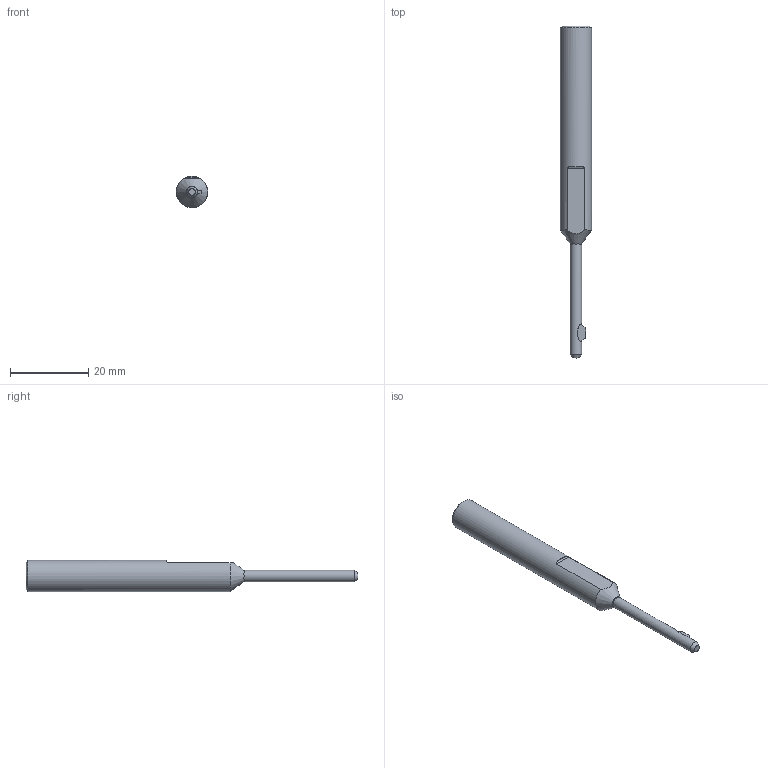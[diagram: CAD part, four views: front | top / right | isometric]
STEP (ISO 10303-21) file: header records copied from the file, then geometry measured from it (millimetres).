
FILE_DESCRIPTION(/* description */ (''),/* implementation_level */ '2;1');
FILE_NAME(/* name */ 'X:\EDF\EDF-OPEN\EDF-865\מודל מעודכן\U burr\קבצי STEP\Assembly of uburr 3 standard_Simplify_1.stp',/* time_stamp */ '2023-03-02T10:39:22+02:00',/* author */ ('adva'),/* organization */ (''),/* preprocessor_version */ 'ST-DEVELOPER v18.1',/* originating_system */ 'Autodesk Inventor 2022',/* authorisation */ '');
FILE_SCHEMA (('CONFIG_CONTROL_DESIGN'));
Length unit declared in the file: millimetre
Products named in the file (1): Assembly of uburr 3 standard_Simplify_1
Bounding box: 8 x 85 x 8 mm (x, y, z)
Volume: 2872.2 mm3; surface area: 1704.9 mm2
Topology: 1 solids, 1 shells, 22 faces, 54 edges, 35 vertices
Faces by surface type: plane 11, cylinder 6, cone 3, torus 2
Full cylindrical faces by diameter (mm): 2.9 x1, 8 x1
Entity records: 781 total; most frequent: CARTESIAN_POINT 181, DIRECTION 115, ORIENTED_EDGE 108, EDGE_CURVE 54, AXIS2_PLACEMENT_3D 46, VERTEX_POINT 35, EDGE_LOOP 23, LINE 23
